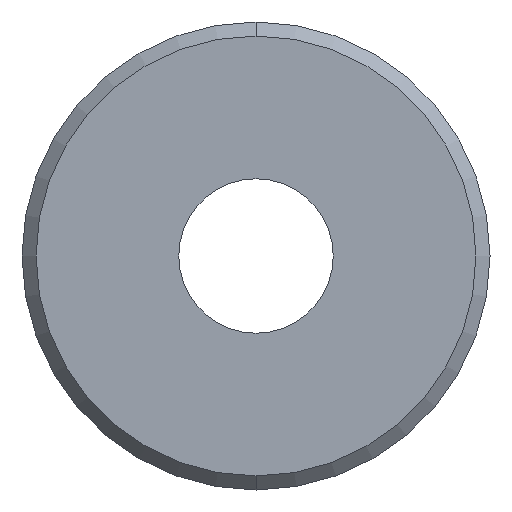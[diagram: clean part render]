
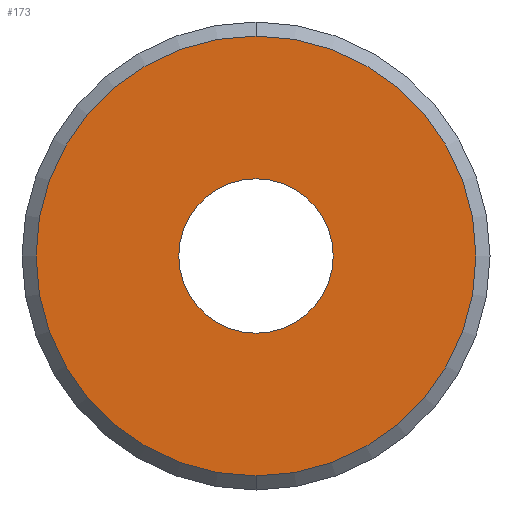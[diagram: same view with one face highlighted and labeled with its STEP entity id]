
A CAD part, front view. The second image highlights one B-rep face of the part: STEP entity #173.
In plain terms, the highlighted planar face has unit normal (0, -1, 0).
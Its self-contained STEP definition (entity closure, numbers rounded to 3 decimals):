
#2 = DIRECTION ( 'NONE',  ( 0., 0., 1. ) ) ;
#22 = ORIENTED_EDGE ( 'NONE', *, *, #113, .T. ) ;
#28 = EDGE_LOOP ( 'NONE', ( #353, #22 ) ) ;
#54 = AXIS2_PLACEMENT_3D ( 'NONE', #270, #426, #341 ) ;
#86 = AXIS2_PLACEMENT_3D ( 'NONE', #169, #307, #458 ) ;
#90 = CARTESIAN_POINT ( 'NONE',  ( 0., 0., -4.7 ) ) ;
#112 = CARTESIAN_POINT ( 'NONE',  ( 0., 0., -1.65 ) ) ;
#113 = EDGE_CURVE ( 'NONE', #393, #471, #337, .T. ) ;
#117 = CARTESIAN_POINT ( 'NONE',  ( 0., 0., 4.7 ) ) ;
#120 = CARTESIAN_POINT ( 'NONE',  ( 0., 0., 1.65 ) ) ;
#132 = AXIS2_PLACEMENT_3D ( 'NONE', #435, #213, #397 ) ;
#163 = CIRCLE ( 'NONE', #411, 1.65 ) ;
#169 = CARTESIAN_POINT ( 'NONE',  ( 0., 0., 0. ) ) ;
#173 = ADVANCED_FACE ( 'NONE', ( #195, #238 ), #379, .F. ) ;
#195 = FACE_OUTER_BOUND ( 'NONE', #370, .T. ) ;
#208 = ORIENTED_EDGE ( 'NONE', *, *, #363, .T. ) ;
#212 = AXIS2_PLACEMENT_3D ( 'NONE', #372, #365, #2 ) ;
#213 = DIRECTION ( 'NONE',  ( 0., -1., 0. ) ) ;
#238 = FACE_BOUND ( 'NONE', #28, .T. ) ;
#241 = VERTEX_POINT ( 'NONE', #90 ) ;
#252 = CIRCLE ( 'NONE', #132, 4.7 ) ;
#270 = CARTESIAN_POINT ( 'NONE',  ( 0., 0., 0. ) ) ;
#275 = DIRECTION ( 'NONE',  ( 0., 1., 0. ) ) ;
#283 = CARTESIAN_POINT ( 'NONE',  ( 0., 0., 0. ) ) ;
#307 = DIRECTION ( 'NONE',  ( 0., 1., 0. ) ) ;
#308 = EDGE_CURVE ( 'NONE', #471, #393, #163, .T. ) ;
#337 = CIRCLE ( 'NONE', #54, 1.65 ) ;
#341 = DIRECTION ( 'NONE',  ( 0., 0., 1. ) ) ;
#353 = ORIENTED_EDGE ( 'NONE', *, *, #308, .T. ) ;
#363 = EDGE_CURVE ( 'NONE', #241, #453, #252, .T. ) ;
#365 = DIRECTION ( 'NONE',  ( 0., -1., 0. ) ) ;
#370 = EDGE_LOOP ( 'NONE', ( #427, #208 ) ) ;
#372 = CARTESIAN_POINT ( 'NONE',  ( 0., 0., 0. ) ) ;
#379 = PLANE ( 'NONE',  #86 ) ;
#393 = VERTEX_POINT ( 'NONE', #112 ) ;
#397 = DIRECTION ( 'NONE',  ( 0., 0., 1. ) ) ;
#411 = AXIS2_PLACEMENT_3D ( 'NONE', #283, #275, #431 ) ;
#426 = DIRECTION ( 'NONE',  ( 0., 1., 0. ) ) ;
#427 = ORIENTED_EDGE ( 'NONE', *, *, #428, .T. ) ;
#428 = EDGE_CURVE ( 'NONE', #453, #241, #446, .T. ) ;
#431 = DIRECTION ( 'NONE',  ( 0., 0., 1. ) ) ;
#435 = CARTESIAN_POINT ( 'NONE',  ( 0., 0., 0. ) ) ;
#446 = CIRCLE ( 'NONE', #212, 4.7 ) ;
#453 = VERTEX_POINT ( 'NONE', #117 ) ;
#458 = DIRECTION ( 'NONE',  ( 0., 0., 1. ) ) ;
#471 = VERTEX_POINT ( 'NONE', #120 ) ;
